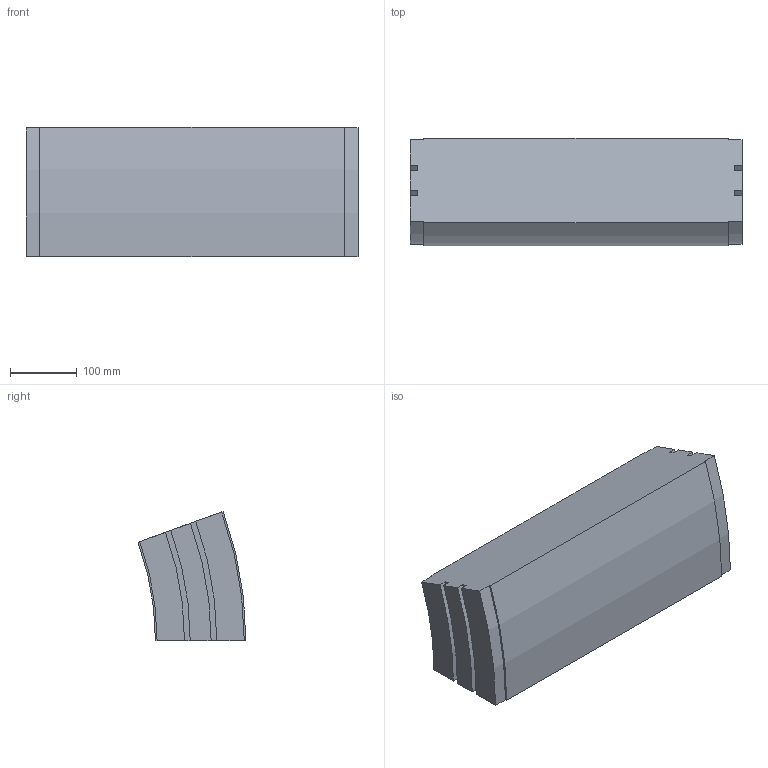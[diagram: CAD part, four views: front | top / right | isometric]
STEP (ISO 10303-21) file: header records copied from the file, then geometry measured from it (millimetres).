
FILE_DESCRIPTION (( 'STEP AP214' ), '1' );
FILE_NAME ('02.150V20.500.N FS-500-MTC-150 Bocht verticaal 20°.STEP', '2013-03-29T13:07:21', ( 'Gebruiker' ), ( '' ), 'SwSTEP 2.0', 'SolidWorks 2012', '' );
FILE_SCHEMA (( 'AUTOMOTIVE_DESIGN' ));
Length unit declared in the file: millimetre
Products named in the file (1): 02.150V20.500.N FS-500-MTC-150 Bocht verticaal 20°
Bounding box: 499 x 162.05 x 194.27 mm (x, y, z)
Volume: 11742575.2 mm3; surface area: 371575.7 mm2
Topology: 1 solids, 1 shells, 30 faces, 84 edges, 56 vertices
Faces by surface type: plane 16, cylinder 14
Entity records: 1010 total; most frequent: DIRECTION 174, CARTESIAN_POINT 171, ORIENTED_EDGE 168, EDGE_CURVE 84, AXIS2_PLACEMENT_3D 59, VECTOR 56, LINE 56, VERTEX_POINT 56
